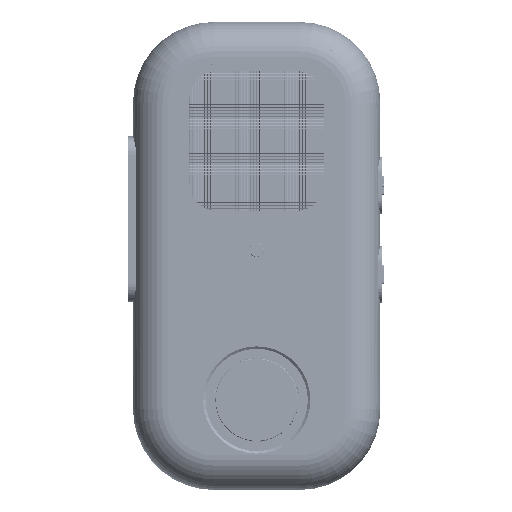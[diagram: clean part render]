
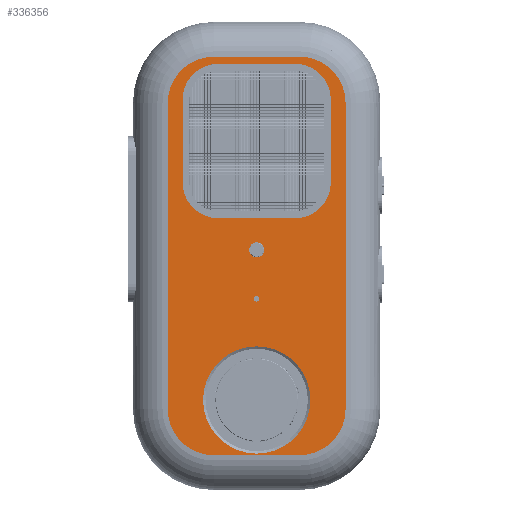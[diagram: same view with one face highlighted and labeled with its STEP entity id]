
A CAD part, top view. The second image highlights one B-rep face of the part: STEP entity #336356.
In plain terms, the highlighted planar face has unit normal (0, 0, 1).
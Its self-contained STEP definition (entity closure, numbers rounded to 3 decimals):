
#16487=PLANE('',#359393);
#30422=FACE_BOUND('',#54437,.T.);
#30423=FACE_BOUND('',#54438,.T.);
#30424=FACE_BOUND('',#54439,.T.);
#30425=FACE_BOUND('',#54440,.T.);
#35094=FACE_OUTER_BOUND('',#54436,.T.);
#54436=EDGE_LOOP('',(#245836,#245837,#245838,#245839,#245840,#245841,#245842,
#245843));
#54437=EDGE_LOOP('',(#245844));
#54438=EDGE_LOOP('',(#245845,#245846,#245847,#245848,#245849,#245850,#245851,
#245852));
#54439=EDGE_LOOP('',(#245853));
#54440=EDGE_LOOP('',(#245854));
#74222=CIRCLE('',#358677,11.7);
#74223=CIRCLE('',#358680,11.7);
#74224=CIRCLE('',#358683,11.7);
#74225=CIRCLE('',#358686,11.7);
#74467=CIRCLE('',#359394,15.);
#74468=CIRCLE('',#359395,15.);
#74469=CIRCLE('',#359396,15.);
#74470=CIRCLE('',#359397,15.);
#74471=CIRCLE('',#359398,2.45);
#74472=CIRCLE('',#359399,17.5);
#74473=CIRCLE('',#359400,0.9);
#82382=LINE('',#491126,#120160);
#82386=LINE('',#491135,#120164);
#82389=LINE('',#491143,#120167);
#82392=LINE('',#491151,#120170);
#83304=LINE('',#494965,#121082);
#83305=LINE('',#494969,#121083);
#83306=LINE('',#494973,#121084);
#83307=LINE('',#494977,#121085);
#120160=VECTOR('',#388384,1.);
#120164=VECTOR('',#388394,1.);
#120167=VECTOR('',#388403,1.);
#120170=VECTOR('',#388412,1.);
#121082=VECTOR('',#390742,1.);
#121083=VECTOR('',#390745,1.);
#121084=VECTOR('',#390748,1.);
#121085=VECTOR('',#390751,1.);
#158298=VERTEX_POINT('',#491124);
#158299=VERTEX_POINT('',#491125);
#158300=VERTEX_POINT('',#491130);
#158301=VERTEX_POINT('',#491134);
#158302=VERTEX_POINT('',#491138);
#158303=VERTEX_POINT('',#491142);
#158304=VERTEX_POINT('',#491146);
#158305=VERTEX_POINT('',#491150);
#159082=VERTEX_POINT('',#494963);
#159083=VERTEX_POINT('',#494964);
#159084=VERTEX_POINT('',#494966);
#159085=VERTEX_POINT('',#494968);
#159086=VERTEX_POINT('',#494970);
#159087=VERTEX_POINT('',#494972);
#159088=VERTEX_POINT('',#494974);
#159089=VERTEX_POINT('',#494976);
#159090=VERTEX_POINT('',#494979);
#159091=VERTEX_POINT('',#494981);
#159092=VERTEX_POINT('',#494983);
#192111=EDGE_CURVE('',#158298,#158299,#82382,.T.);
#192114=EDGE_CURVE('',#158300,#158298,#74222,.T.);
#192116=EDGE_CURVE('',#158301,#158300,#82386,.T.);
#192118=EDGE_CURVE('',#158302,#158301,#74223,.T.);
#192120=EDGE_CURVE('',#158303,#158302,#82389,.T.);
#192122=EDGE_CURVE('',#158304,#158303,#74224,.T.);
#192124=EDGE_CURVE('',#158305,#158304,#82392,.T.);
#192126=EDGE_CURVE('',#158299,#158305,#74225,.T.);
#193355=EDGE_CURVE('',#159082,#159083,#83304,.T.);
#193356=EDGE_CURVE('',#159084,#159082,#74467,.T.);
#193357=EDGE_CURVE('',#159085,#159084,#83305,.T.);
#193358=EDGE_CURVE('',#159086,#159085,#74468,.T.);
#193359=EDGE_CURVE('',#159087,#159086,#83306,.T.);
#193360=EDGE_CURVE('',#159088,#159087,#74469,.T.);
#193361=EDGE_CURVE('',#159089,#159088,#83307,.T.);
#193362=EDGE_CURVE('',#159083,#159089,#74470,.T.);
#193363=EDGE_CURVE('',#159090,#159090,#74471,.T.);
#193364=EDGE_CURVE('',#159091,#159091,#74472,.T.);
#193365=EDGE_CURVE('',#159092,#159092,#74473,.T.);
#245836=ORIENTED_EDGE('',*,*,#193355,.F.);
#245837=ORIENTED_EDGE('',*,*,#193356,.F.);
#245838=ORIENTED_EDGE('',*,*,#193357,.F.);
#245839=ORIENTED_EDGE('',*,*,#193358,.F.);
#245840=ORIENTED_EDGE('',*,*,#193359,.F.);
#245841=ORIENTED_EDGE('',*,*,#193360,.F.);
#245842=ORIENTED_EDGE('',*,*,#193361,.F.);
#245843=ORIENTED_EDGE('',*,*,#193362,.F.);
#245844=ORIENTED_EDGE('',*,*,#193363,.T.);
#245845=ORIENTED_EDGE('',*,*,#192116,.T.);
#245846=ORIENTED_EDGE('',*,*,#192114,.T.);
#245847=ORIENTED_EDGE('',*,*,#192111,.T.);
#245848=ORIENTED_EDGE('',*,*,#192126,.T.);
#245849=ORIENTED_EDGE('',*,*,#192124,.T.);
#245850=ORIENTED_EDGE('',*,*,#192122,.T.);
#245851=ORIENTED_EDGE('',*,*,#192120,.T.);
#245852=ORIENTED_EDGE('',*,*,#192118,.T.);
#245853=ORIENTED_EDGE('',*,*,#193364,.T.);
#245854=ORIENTED_EDGE('',*,*,#193365,.T.);
#336356=ADVANCED_FACE('',(#35094,#30422,#30423,#30424,#30425),#16487,.T.);
#358677=AXIS2_PLACEMENT_3D('',#491131,#388389,#388390);
#358680=AXIS2_PLACEMENT_3D('',#491139,#388398,#388399);
#358683=AXIS2_PLACEMENT_3D('',#491147,#388407,#388408);
#358686=AXIS2_PLACEMENT_3D('',#491154,#388416,#388417);
#359393=AXIS2_PLACEMENT_3D('',#494962,#390740,#390741);
#359394=AXIS2_PLACEMENT_3D('',#494967,#390743,#390744);
#359395=AXIS2_PLACEMENT_3D('',#494971,#390746,#390747);
#359396=AXIS2_PLACEMENT_3D('',#494975,#390749,#390750);
#359397=AXIS2_PLACEMENT_3D('',#494978,#390752,#390753);
#359398=AXIS2_PLACEMENT_3D('',#494980,#390754,#390755);
#359399=AXIS2_PLACEMENT_3D('',#494982,#390756,#390757);
#359400=AXIS2_PLACEMENT_3D('',#494984,#390758,#390759);
#388384=DIRECTION('',(0.,-1.,0.));
#388389=DIRECTION('center_axis',(0.,0.,-1.));
#388390=DIRECTION('ref_axis',(1.,0.,0.));
#388394=DIRECTION('',(1.,0.,0.));
#388398=DIRECTION('center_axis',(0.,0.,-1.));
#388399=DIRECTION('ref_axis',(1.,0.,0.));
#388403=DIRECTION('',(0.,1.,0.));
#388407=DIRECTION('center_axis',(0.,0.,-1.));
#388408=DIRECTION('ref_axis',(1.,0.,0.));
#388412=DIRECTION('',(-1.,0.,0.));
#388416=DIRECTION('center_axis',(0.,0.,-1.));
#388417=DIRECTION('ref_axis',(1.,0.,0.));
#390740=DIRECTION('center_axis',(0.,0.,1.));
#390741=DIRECTION('ref_axis',(1.,0.,0.));
#390742=DIRECTION('',(0.,1.,0.));
#390743=DIRECTION('center_axis',(0.,0.,-1.));
#390744=DIRECTION('ref_axis',(-0.707,-0.707,0.));
#390745=DIRECTION('',(-1.,0.,0.));
#390746=DIRECTION('center_axis',(0.,0.,-1.));
#390747=DIRECTION('ref_axis',(0.707,-0.707,0.));
#390748=DIRECTION('',(0.,-1.,0.));
#390749=DIRECTION('center_axis',(0.,0.,-1.));
#390750=DIRECTION('ref_axis',(0.707,0.707,0.));
#390751=DIRECTION('',(1.,0.,0.));
#390752=DIRECTION('center_axis',(0.,0.,-1.));
#390753=DIRECTION('ref_axis',(-0.707,0.707,0.));
#390754=DIRECTION('center_axis',(0.,0.,-1.));
#390755=DIRECTION('ref_axis',(1.,0.,0.));
#390756=DIRECTION('center_axis',(0.,0.,-1.));
#390757=DIRECTION('ref_axis',(1.,0.,0.));
#390758=DIRECTION('center_axis',(0.,0.,-1.));
#390759=DIRECTION('ref_axis',(-1.,0.,0.));
#491124=CARTESIAN_POINT('',(24.2,51.,0.));
#491125=CARTESIAN_POINT('',(24.2,24.,0.));
#491126=CARTESIAN_POINT('',(24.2,18.75,0.));
#491130=CARTESIAN_POINT('',(12.5,62.7,0.));
#491131=CARTESIAN_POINT('Origin',(12.5,51.,0.));
#491134=CARTESIAN_POINT('',(-12.5,62.7,0.));
#491135=CARTESIAN_POINT('',(0.,62.7,0.));
#491138=CARTESIAN_POINT('',(-24.2,51.,0.));
#491139=CARTESIAN_POINT('Origin',(-12.5,51.,0.));
#491142=CARTESIAN_POINT('',(-24.2,24.,0.));
#491143=CARTESIAN_POINT('',(-24.2,18.75,0.));
#491146=CARTESIAN_POINT('',(-12.5,12.3,0.));
#491147=CARTESIAN_POINT('Origin',(-12.5,24.,0.));
#491150=CARTESIAN_POINT('',(12.5,12.3,0.));
#491151=CARTESIAN_POINT('',(0.,12.3,0.));
#491154=CARTESIAN_POINT('Origin',(12.5,24.,0.));
#494962=CARTESIAN_POINT('Origin',(0.,0.,0.));
#494963=CARTESIAN_POINT('',(-29.,-50.,0.));
#494964=CARTESIAN_POINT('',(-29.,50.,0.));
#494965=CARTESIAN_POINT('',(-29.,0.,0.));
#494966=CARTESIAN_POINT('',(-14.,-65.,0.));
#494967=CARTESIAN_POINT('Origin',(-14.,-50.,0.));
#494968=CARTESIAN_POINT('',(14.,-65.,0.));
#494969=CARTESIAN_POINT('',(0.,-65.,0.));
#494970=CARTESIAN_POINT('',(29.,-50.,0.));
#494971=CARTESIAN_POINT('Origin',(14.,-50.,0.));
#494972=CARTESIAN_POINT('',(29.,50.,0.));
#494973=CARTESIAN_POINT('',(29.,0.,0.));
#494974=CARTESIAN_POINT('',(14.,65.,0.));
#494975=CARTESIAN_POINT('Origin',(14.,50.,0.));
#494976=CARTESIAN_POINT('',(-14.,65.,0.));
#494977=CARTESIAN_POINT('',(0.,65.,0.));
#494978=CARTESIAN_POINT('Origin',(-14.,50.,0.));
#494979=CARTESIAN_POINT('',(-2.45,2.,0.));
#494980=CARTESIAN_POINT('Origin',(0.,2.,0.));
#494981=CARTESIAN_POINT('',(-17.5,-47.,0.));
#494982=CARTESIAN_POINT('Origin',(0.,-47.,0.));
#494983=CARTESIAN_POINT('',(0.9,-14.,0.));
#494984=CARTESIAN_POINT('Origin',(0.,-14.,0.));
